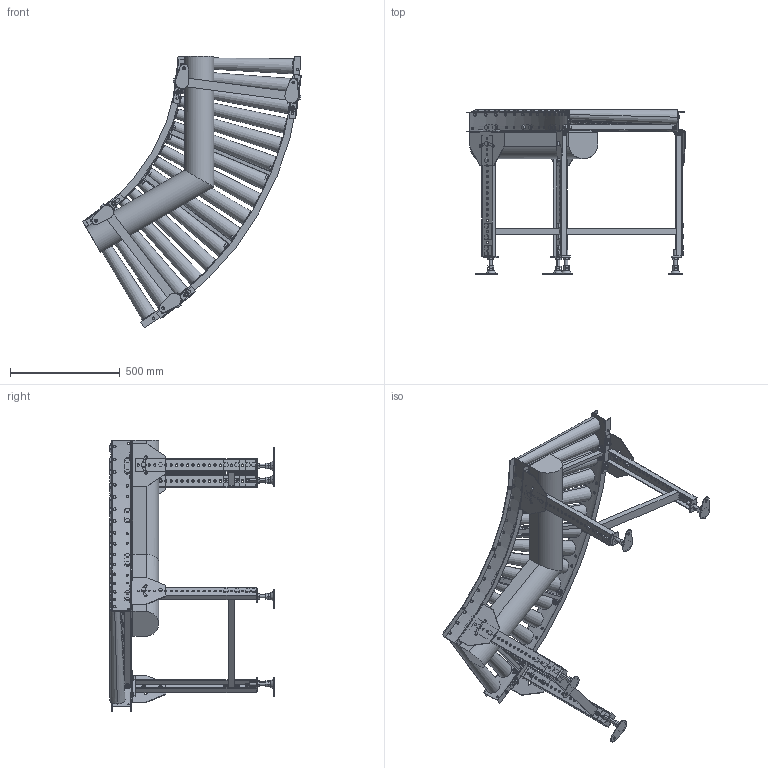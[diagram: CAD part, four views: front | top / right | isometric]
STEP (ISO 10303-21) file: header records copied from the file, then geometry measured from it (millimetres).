
FILE_DESCRIPTION (( 'STEP AP214' ), '1' );
FILE_NAME ('MCD50C9-60-500-75.STEP', '2022-08-01T06:52:33', ( '' ), ( '' ), 'SwSTEP 2.0', 'SolidWorks 2017', '' );
FILE_SCHEMA (( 'AUTOMOTIVE_DESIGN' ));
Length unit declared in the file: millimetre
Products named in the file (1): MCD50C9-60-500-75
Bounding box: 997.18 x 750 x 1238.42 mm (x, y, z)
Volume: 41012411.7 mm3; surface area: 3924862.4 mm2
Topology: 19 solids, 39 shells, 2615 faces, 6234 edges, 3934 vertices
Faces by surface type: plane 1839, cylinder 736, cone 40
Entity records: 112847 total; most frequent: CARTESIAN_POINT 21803, DIRECTION 13143, ORIENTED_EDGE 12468, EDGE_CURVE 6234, AXIS2_PLACEMENT_3D 4582, VECTOR 3979, LINE 3979, VERTEX_POINT 3934
